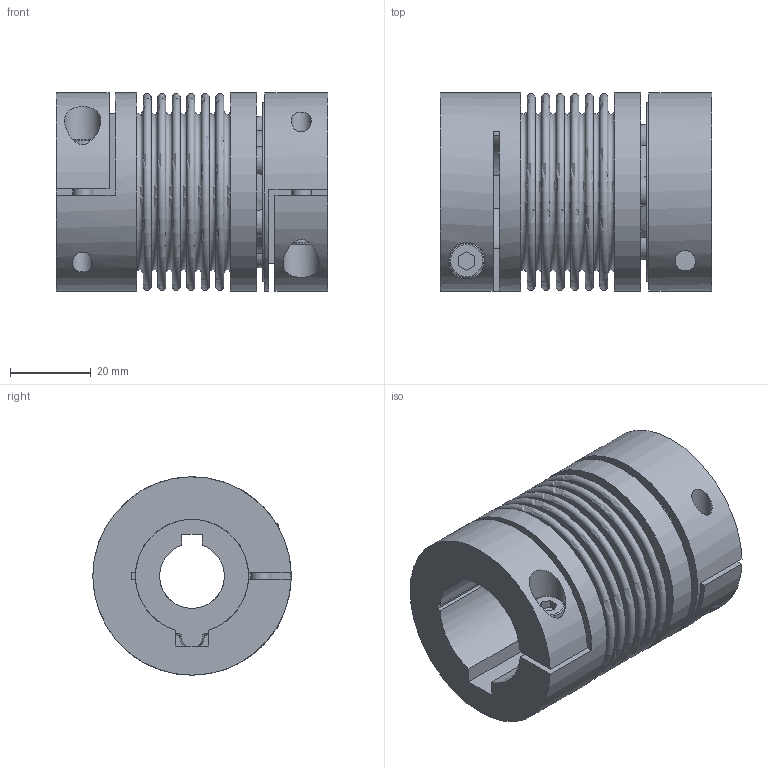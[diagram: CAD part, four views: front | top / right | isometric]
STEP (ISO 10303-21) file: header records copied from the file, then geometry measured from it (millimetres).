
FILE_DESCRIPTION(/* description */ ('STEP AP214'),/* implementation_level */ '2;1');
FILE_NAME(/* name */ 'C:\Diequa Files\DieQua Coupling\BCB\STP\BCB.15.67.#.#.stp',/* time_stamp */ '2018-11-26T10:28:54-06:00',/* author */ ('DiequaCAD'),/* organization */ (''),/* preprocessor_version */ 'ST-DEVELOPER v17.2',/* originating_system */ 'Autodesk Inventor 2019',/* authorisation */ ' ');
FILE_SCHEMA (('AUTOMOTIVE_DESIGN { 1 0 10303 214 3 1 1 }'));
Length unit declared in the file: millimetre
Products named in the file (3): BK5_15_67_28_PFN_16_PFN_71; 2018_11_09__17-47-55-441; 2018_11_09__17-47-55-441_1
Assembly tree (2 placements, depth 2):
  BK5_15_67_28_PFN_16_PFN_71
    2018_11_09__17-47-55-441
    2018_11_09__17-47-55-441_1
Bounding box: 67 x 49 x 49 mm (x, y, z)
Volume: 74064.9 mm3; surface area: 36584.1 mm2
Topology: 2 solids, 2 shells, 128 faces, 333 edges, 232 vertices
Faces by surface type: plane 69, cone 24, cylinder 20, torus 15
Full cylindrical faces by diameter (mm): 5 x4, 8.5 x2, 9 x2, 36 x1, 44 x1, 49 x3
Entity records: 17914 total; most frequent: CARTESIAN_POINT 14657, ORIENTED_EDGE 666, DIRECTION 630, EDGE_CURVE 333, AXIS2_PLACEMENT_3D 256, VERTEX_POINT 232, EDGE_LOOP 159, FACE_OUTER_BOUND 128
